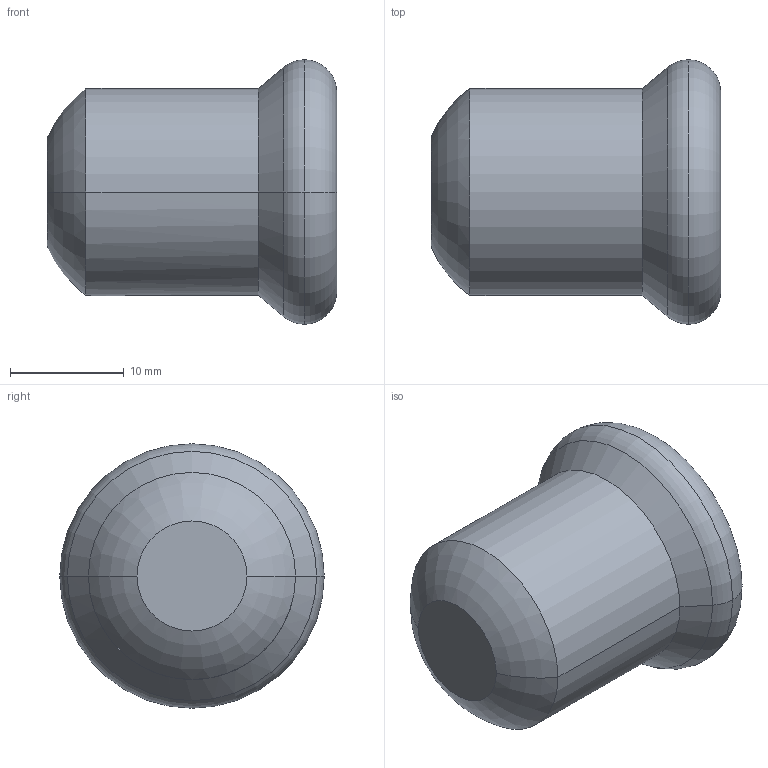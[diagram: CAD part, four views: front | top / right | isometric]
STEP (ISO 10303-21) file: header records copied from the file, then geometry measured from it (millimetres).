
FILE_DESCRIPTION(('CoCreate Modeling STEP Export'),'2;1');
FILE_NAME('C1429 15.stp','2014-11-12T16:07:21',(''),(''),'CoCreate Modeling STEP processor for AP214 (Solid Model)','CoCreate Modeling 17.00A 17-Jun-2010 (C) Parametric Technology GmbH','');
FILE_SCHEMA(('AUTOMOTIVE_DESIGN { 1 0 10303 214 1 1 1 1 }'));
Length unit declared in the file: millimetre
Products named in the file (2): C1429_15
Assembly tree (1 placements, depth 2):
  C1429_15
    C1429_15
Bounding box: 25.5 x 23.3 x 23.3 mm (x, y, z)
Volume: 3181.6 mm3; surface area: 3114.2 mm2
Topology: 1 solids, 1 shells, 18 faces, 36 edges, 22 vertices
Faces by surface type: torus 6, cylinder 6, plane 4, cone 2
Entity records: 425 total; most frequent: ORIENTED_EDGE 72, DIRECTION 64, CARTESIAN_POINT 58, EDGE_CURVE 36, AXIS2_PLACEMENT_3D 28, VERTEX_POINT 22, EDGE_LOOP 20, FACE_OUTER_BOUND 18
